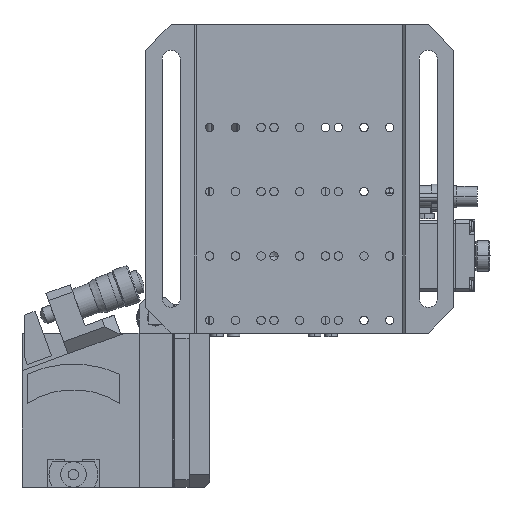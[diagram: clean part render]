
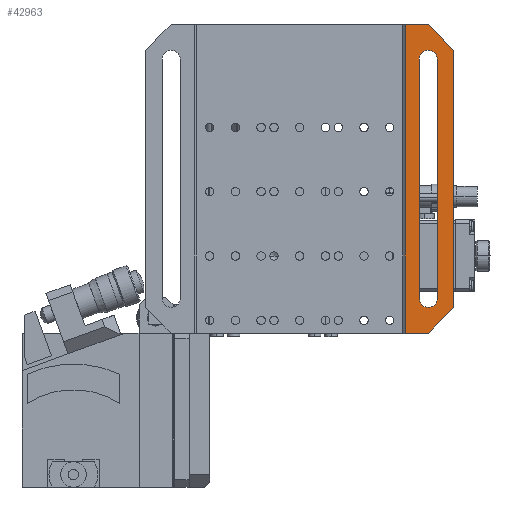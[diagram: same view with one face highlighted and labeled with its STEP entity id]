
A CAD part, front view. The second image highlights one B-rep face of the part: STEP entity #42963.
In plain terms, the highlighted planar face has unit normal (0, -1, 0).
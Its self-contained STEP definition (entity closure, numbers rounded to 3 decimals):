
#1215 = DIRECTION ( 'NONE',  ( 0., 0., -1. ) ) ;
#1320 = VECTOR ( 'NONE', #5525, 1000. ) ;
#3045 = LINE ( 'NONE', #33462, #62515 ) ;
#3341 = DIRECTION ( 'NONE',  ( 0., 0., 1. ) ) ;
#4096 = VERTEX_POINT ( 'NONE', #44449 ) ;
#4289 = ORIENTED_EDGE ( 'NONE', *, *, #4417, .F. ) ;
#4417 = EDGE_CURVE ( 'NONE', #73236, #62464, #49100, .T. ) ;
#5525 = DIRECTION ( 'NONE',  ( -0.707, 0., 0.707 ) ) ;
#7883 = DIRECTION ( 'NONE',  ( 0., -1., 0. ) ) ;
#8256 = LINE ( 'NONE', #61134, #39931 ) ;
#8904 = DIRECTION ( 'NONE',  ( 0., 0., -1. ) ) ;
#9696 = EDGE_CURVE ( 'NONE', #64031, #56287, #65146, .T. ) ;
#12350 = ORIENTED_EDGE ( 'NONE', *, *, #18870, .T. ) ;
#13465 = DIRECTION ( 'NONE',  ( 0., 0., 1. ) ) ;
#14651 = CARTESIAN_POINT ( 'NONE',  ( 60., 0., 60. ) ) ;
#15590 = VECTOR ( 'NONE', #75843, 1000. ) ;
#16470 = CARTESIAN_POINT ( 'NONE',  ( 53.5, 0., 60. ) ) ;
#16482 = CARTESIAN_POINT ( 'NONE',  ( 53.5, 0., 13.5 ) ) ;
#17949 = ORIENTED_EDGE ( 'NONE', *, *, #34676, .T. ) ;
#18671 = AXIS2_PLACEMENT_3D ( 'NONE', #72298, #36867, #1215 ) ;
#18870 = EDGE_CURVE ( 'NONE', #55528, #65476, #71569, .T. ) ;
#19510 = CARTESIAN_POINT ( 'NONE',  ( 50., 0., 13.5 ) ) ;
#20803 = ORIENTED_EDGE ( 'NONE', *, *, #35621, .T. ) ;
#21250 = CARTESIAN_POINT ( 'NONE',  ( 50., 0., 13.5 ) ) ;
#22204 = FACE_OUTER_BOUND ( 'NONE', #65488, .T. ) ;
#23822 = ORIENTED_EDGE ( 'NONE', *, *, #67678, .T. ) ;
#25506 = DIRECTION ( 'NONE',  ( 0., 0., -1. ) ) ;
#25580 = CARTESIAN_POINT ( 'NONE',  ( 60., 0., 0. ) ) ;
#27240 = DIRECTION ( 'NONE',  ( 0., 0., -1. ) ) ;
#27458 = CARTESIAN_POINT ( 'NONE',  ( 0., 0., 0. ) ) ;
#28112 = EDGE_CURVE ( 'NONE', #56287, #55528, #74921, .T. ) ;
#28692 = ORIENTED_EDGE ( 'NONE', *, *, #71950, .F. ) ;
#28726 = ORIENTED_EDGE ( 'NONE', *, *, #45838, .T. ) ;
#29467 = VECTOR ( 'NONE', #3341, 1000. ) ;
#31385 = LINE ( 'NONE', #16470, #15590 ) ;
#31564 = DIRECTION ( 'NONE',  ( 1., 0., 0. ) ) ;
#32983 = CARTESIAN_POINT ( 'NONE',  ( 46.5, 0., 60. ) ) ;
#33352 = VECTOR ( 'NONE', #13465, 1000. ) ;
#33462 = CARTESIAN_POINT ( 'NONE',  ( 55., 0., 5. ) ) ;
#34676 = EDGE_CURVE ( 'NONE', #4096, #40701, #46879, .T. ) ;
#35379 = ORIENTED_EDGE ( 'NONE', *, *, #42962, .F. ) ;
#35621 = EDGE_CURVE ( 'NONE', #36307, #56858, #3045, .T. ) ;
#35933 = CARTESIAN_POINT ( 'NONE',  ( 50., 0., 10. ) ) ;
#36307 = VERTEX_POINT ( 'NONE', #45030 ) ;
#36867 = DIRECTION ( 'NONE',  ( 0., 1., 0. ) ) ;
#37201 = CARTESIAN_POINT ( 'NONE',  ( 41., 0., 60. ) ) ;
#39362 = CARTESIAN_POINT ( 'NONE',  ( 53.5, 0., 106.5 ) ) ;
#39450 = DIRECTION ( 'NONE',  ( -1., 0., 0. ) ) ;
#39464 = DIRECTION ( 'NONE',  ( 0.707, 0., 0.707 ) ) ;
#39810 = CIRCLE ( 'NONE', #59381, 3.5 ) ;
#39931 = VECTOR ( 'NONE', #31564, 1000. ) ;
#40585 = ORIENTED_EDGE ( 'NONE', *, *, #40876, .F. ) ;
#40701 = VERTEX_POINT ( 'NONE', #42452 ) ;
#40876 = EDGE_CURVE ( 'NONE', #4096, #56858, #67115, .T. ) ;
#41797 = VECTOR ( 'NONE', #39450, 1000. ) ;
#42452 = CARTESIAN_POINT ( 'NONE',  ( 50., 0., 120. ) ) ;
#42962 = EDGE_CURVE ( 'NONE', #62464, #40701, #8256, .T. ) ;
#42963 = ADVANCED_FACE ( 'NONE', ( #53027, #22204 ), #43488, .T. ) ;
#43488 = PLANE ( 'NONE',  #72121 ) ;
#44449 = CARTESIAN_POINT ( 'NONE',  ( 60., 0., 110. ) ) ;
#45030 = CARTESIAN_POINT ( 'NONE',  ( 50., 0., 0. ) ) ;
#45598 = CARTESIAN_POINT ( 'NONE',  ( 60., 0., 10. ) ) ;
#45838 = EDGE_CURVE ( 'NONE', #65476, #47375, #31385, .T. ) ;
#46879 = LINE ( 'NONE', #76562, #1320 ) ;
#47375 = VERTEX_POINT ( 'NONE', #16482 ) ;
#48005 = CARTESIAN_POINT ( 'NONE',  ( 41., 0., 0. ) ) ;
#48384 = ORIENTED_EDGE ( 'NONE', *, *, #9696, .T. ) ;
#48607 = CARTESIAN_POINT ( 'NONE',  ( 46.5, 0., 106.5 ) ) ;
#49100 = LINE ( 'NONE', #37201, #33352 ) ;
#49444 = DIRECTION ( 'NONE',  ( 0., 0., 1. ) ) ;
#50510 = EDGE_LOOP ( 'NONE', ( #53653, #12350, #28726, #23822, #48384 ) ) ;
#51361 = VECTOR ( 'NONE', #8904, 1000. ) ;
#53027 = FACE_BOUND ( 'NONE', #50510, .T. ) ;
#53653 = ORIENTED_EDGE ( 'NONE', *, *, #28112, .T. ) ;
#55528 = VERTEX_POINT ( 'NONE', #48607 ) ;
#56287 = VERTEX_POINT ( 'NONE', #70255 ) ;
#56858 = VERTEX_POINT ( 'NONE', #45598 ) ;
#59381 = AXIS2_PLACEMENT_3D ( 'NONE', #19510, #61055, #25506 ) ;
#59478 = LINE ( 'NONE', #27458, #41797 ) ;
#61055 = DIRECTION ( 'NONE',  ( 0., 1., 0. ) ) ;
#61134 = CARTESIAN_POINT ( 'NONE',  ( 0., 0., 120. ) ) ;
#62464 = VERTEX_POINT ( 'NONE', #65915 ) ;
#62515 = VECTOR ( 'NONE', #39464, 1000. ) ;
#62801 = DIRECTION ( 'NONE',  ( 0., 1., 0. ) ) ;
#64031 = VERTEX_POINT ( 'NONE', #35933 ) ;
#65146 = CIRCLE ( 'NONE', #65179, 3.5 ) ;
#65179 = AXIS2_PLACEMENT_3D ( 'NONE', #21250, #62801, #27240 ) ;
#65476 = VERTEX_POINT ( 'NONE', #39362 ) ;
#65488 = EDGE_LOOP ( 'NONE', ( #35379, #4289, #28692, #20803, #40585, #17949 ) ) ;
#65915 = CARTESIAN_POINT ( 'NONE',  ( 41., 0., 120. ) ) ;
#67115 = LINE ( 'NONE', #14651, #51361 ) ;
#67678 = EDGE_CURVE ( 'NONE', #47375, #64031, #39810, .T. ) ;
#70255 = CARTESIAN_POINT ( 'NONE',  ( 46.5, 0., 13.5 ) ) ;
#71569 = CIRCLE ( 'NONE', #18671, 3.5 ) ;
#71950 = EDGE_CURVE ( 'NONE', #36307, #73236, #59478, .T. ) ;
#72121 = AXIS2_PLACEMENT_3D ( 'NONE', #25580, #7883, #49444 ) ;
#72298 = CARTESIAN_POINT ( 'NONE',  ( 50., 0., 106.5 ) ) ;
#73236 = VERTEX_POINT ( 'NONE', #48005 ) ;
#74921 = LINE ( 'NONE', #32983, #29467 ) ;
#75843 = DIRECTION ( 'NONE',  ( 0., 0., -1. ) ) ;
#76562 = CARTESIAN_POINT ( 'NONE',  ( 55., 0., 115. ) ) ;
